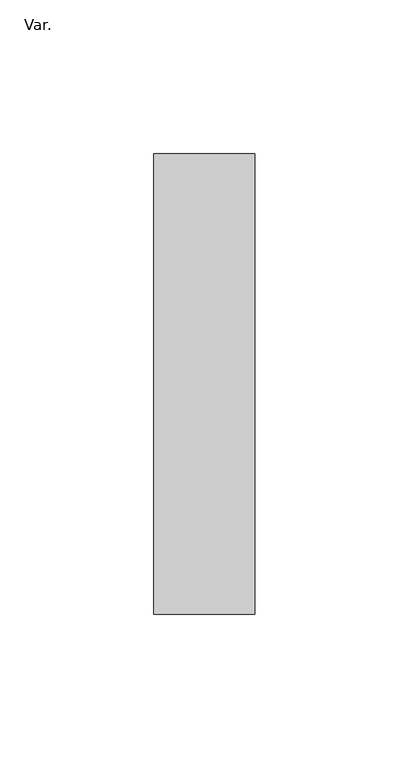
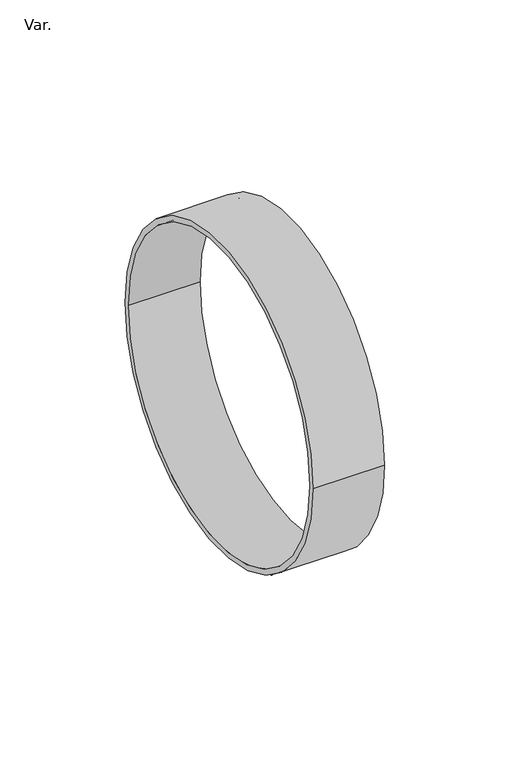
"""IFC4 building model written with IfcOpenShell, lengths in millimetres: pipe fitting geometry, AmancoWavin_ConexõesdeTubos_EsgotoZNãoUsarEsgotoCaixaSifProlongamento : Var.."""

from ifc_helpers import new_model, si_unit, point, frame, origin, origin_2d, place, context, project, spatial, circle_curve, trimmed, segment, composite_curve, outline, extrude, source, transform, mapped, element, save


def var_d2fa6d5f(model_context):
    return source(origin(), model_context, "Body", "SweptSolid", [
        extrude(outline(composite_curve([segment(trimmed(circle_curve(origin_2d(), 75.0), [point((-75.0, 0.0))], [point((75.0, 0.0))], False, "CARTESIAN"), True, "CONTINUOUS"), segment(trimmed(circle_curve(origin_2d(), 75.0), [point((75.0, 0.0))], [point((-75.0, 0.0))], False, "CARTESIAN"), True, "CONTINUOUS")], self_intersect=False), holes=[composite_curve([segment(trimmed(circle_curve(origin_2d(), 72.4), [point((-72.4, 0.0))], [point((72.4, 0.0))], True, "CARTESIAN"), True, "CONTINUOUS"), segment(trimmed(circle_curve(origin_2d(), 72.4), [point((72.4, 0.0))], [point((-72.4, 0.0))], True, "CARTESIAN"), True, "CONTINUOUS")], self_intersect=False)]), frame((0.0, 0.0, 0.0), z_axis=(1.0, 0.0, 0.0), x_axis=(0.0, 1.0, 0.0)), (0.0, 0.0, 1.0), 33.0),
    ])


if __name__ == "__main__":
    model = new_model("IFC4")
    model_context = context("Model", 3, world=origin())
    ifc_project = project(units=[si_unit("LENGTHUNIT", "METRE", prefix="MILLI")], contexts=[model_context])
    site = spatial("IfcSite", under=ifc_project)
    building = spatial("IfcBuilding", under=site)
    placement = place(None, origin())
    var_shape = var_d2fa6d5f(model_context)
    element("IfcPipeFitting", 1, ObjectType="AmancoWavin_ConexõesdeTubos_EsgotoZNãoUsarEsgotoCaixaSifProlongamento : Var.", at=placement, inside=building, context=model_context, shape_type="MappedRepresentation", body=[
        mapped(var_shape, transform((0.0, 0.0, 0.0), x_axis=(1.0, 0.0, 0.0), y_axis=(0.0, 1.0, 0.0), z_axis=(0.0, 0.0, 1.0))),
    ])
    save(model, "model.ifc")
